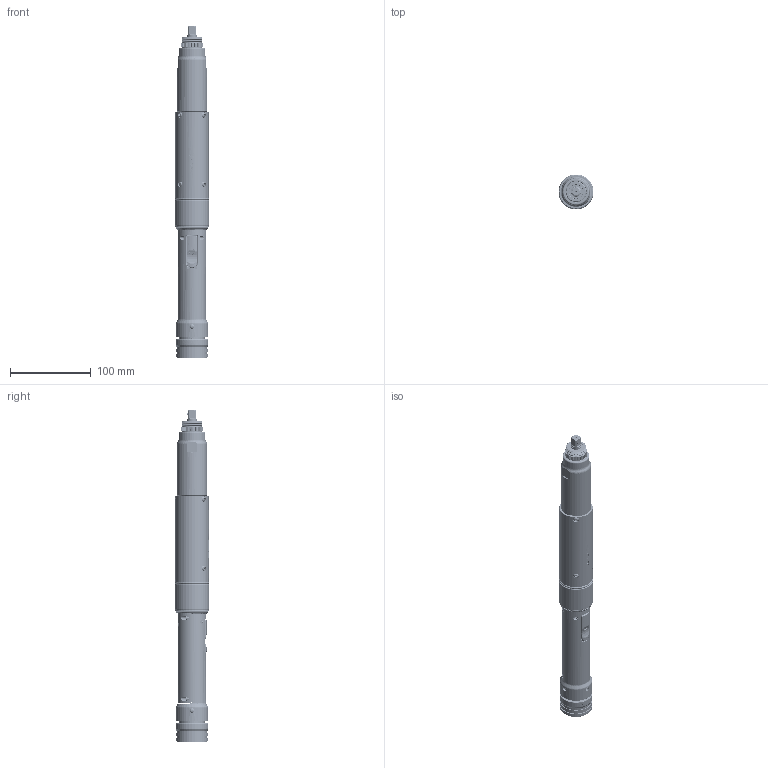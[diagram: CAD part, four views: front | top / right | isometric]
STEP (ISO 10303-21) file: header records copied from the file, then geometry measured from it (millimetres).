
FILE_DESCRIPTION (( 'STEP AP214' ), '1' );
FILE_NAME ('AES4A220_ _B.STEP', '2020-03-19T18:00:58', ( '' ), ( '' ), 'SwSTEP 2.0', 'SolidWorks 2019', '' );
FILE_SCHEMA (( 'AUTOMOTIVE_DESIGN' ));
Length unit declared in the file: inch
Products named in the file (1): AES4A220_ _B
Bounding box: 43.31 x 43.31 x 412.16 mm (x, y, z)
Volume: 195668.4 mm3; surface area: 169304.4 mm2
Topology: 124 solids, 124 shells, 5127 faces, 12961 edges, 8285 vertices
Faces by surface type: plane 1614, cylinder 1560, bspline 1166, cone 475, torus 310, sphere 2
Entity records: 262989 total; most frequent: CARTESIAN_POINT 80369, ORIENTED_EDGE 25878, DIRECTION 20647, EDGE_CURVE 12939, VERTEX_POINT 8285, AXIS2_PLACEMENT_3D 8132, EDGE_LOOP 5612, UNCERTAINTY_MEASURE_WITH_UNIT 5213
